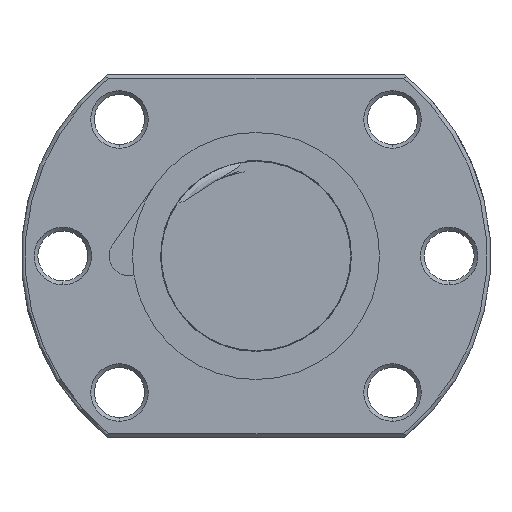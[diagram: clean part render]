
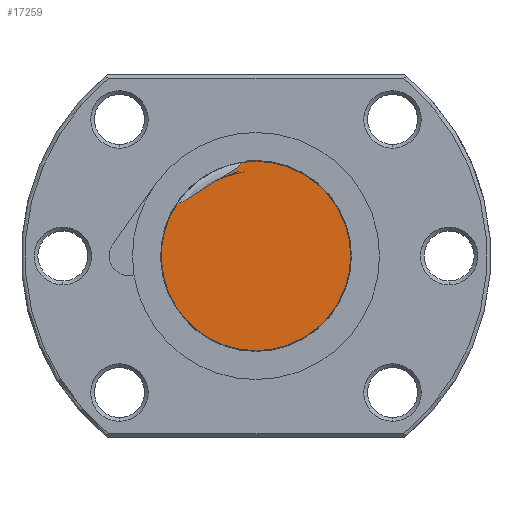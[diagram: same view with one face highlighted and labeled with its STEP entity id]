
A CAD part, left-side view. The second image highlights one B-rep face of the part: STEP entity #17259.
In plain terms, the highlighted planar face has unit normal (-1, 0, 0).
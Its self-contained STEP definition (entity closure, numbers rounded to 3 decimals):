
#6766 = DIRECTION ( 'NONE',  ( 0., 0., -1. ) ) ;
#6768 = DIRECTION ( 'NONE',  ( 1., 0., 0. ) ) ;
#6769 = CARTESIAN_POINT ( 'NONE',  ( -271., 0., 0. ) ) ;
#6771 = AXIS2_PLACEMENT_3D ( 'NONE', #6769, #6768, #6766 ) ;
#6773 = PLANE ( 'NONE',  #6771 ) ;
#6820 = FACE_OUTER_BOUND ( 'NONE', #17260, .T. ) ;
#11388 = CARTESIAN_POINT ( 'NONE',  ( -271., 10.355, 7.001 ) ) ;
#11390 = CARTESIAN_POINT ( 'NONE',  ( -271., 10.25, 6.997 ) ) ;
#11392 = CARTESIAN_POINT ( 'NONE',  ( -271., 10.144, 7.013 ) ) ;
#11394 = CARTESIAN_POINT ( 'NONE',  ( -271., 9.941, 7.062 ) ) ;
#11396 = CARTESIAN_POINT ( 'NONE',  ( -271., 9.842, 7.097 ) ) ;
#11398 = CARTESIAN_POINT ( 'NONE',  ( -271., 9.549, 7.214 ) ) ;
#11400 = CARTESIAN_POINT ( 'NONE',  ( -271., 9.363, 7.311 ) ) ;
#11402 = CARTESIAN_POINT ( 'NONE',  ( -271., 8.816, 7.619 ) ) ;
#11404 = CARTESIAN_POINT ( 'NONE',  ( -271., 8.464, 7.85 ) ) ;
#11406 = CARTESIAN_POINT ( 'NONE',  ( -271., 7.764, 8.313 ) ) ;
#11408 = CARTESIAN_POINT ( 'NONE',  ( -271., 7.416, 8.548 ) ) ;
#11409 = CARTESIAN_POINT ( 'NONE',  ( -271., 6.716, 9.011 ) ) ;
#11411 = CARTESIAN_POINT ( 'NONE',  ( -271., 6.013, 9.468 ) ) ;
#11413 = CARTESIAN_POINT ( 'NONE',  ( -271., 5.299, 9.909 ) ) ;
#11415 = CARTESIAN_POINT ( 'NONE',  ( -271., 4.582, 10.345 ) ) ;
#11417 = CARTESIAN_POINT ( 'NONE',  ( -271., 4.222, 10.561 ) ) ;
#11419 = CARTESIAN_POINT ( 'NONE',  ( -271., 3.505, 10.997 ) ) ;
#11421 = CARTESIAN_POINT ( 'NONE',  ( -271., 3.147, 11.217 ) ) ;
#11422 = CARTESIAN_POINT ( 'NONE',  ( -271., 2.634, 11.582 ) ) ;
#11439 = B_SPLINE_CURVE_WITH_KNOTS ( 'NONE', 3,
 ( #11500, #11498, #11496, #11494, #11492, #11490, #11422, #11421, #11419, #11417, #11415, #11413, #11411, #11409, #11408, #11406, #11404, #11402, #11400, #11398, #11396, #11394, #11392, #11390, #11388 ),
 .UNSPECIFIED., .F., .F.,
 ( 4, 2, 2, 2, 2, 2, 1, 2, 2, 2, 2, 2, 4 ),
 ( 0., 0.001, 0.001, 0.002, 0.003, 0.004, 0.005, 0.007, 0.008, 0.009, 0.01, 0.01, 0.01 ),
 .UNSPECIFIED. ) ;
#11490 = CARTESIAN_POINT ( 'NONE',  ( -271., 2.466, 11.71 ) ) ;
#11492 = CARTESIAN_POINT ( 'NONE',  ( -271., 2.234, 11.925 ) ) ;
#11494 = CARTESIAN_POINT ( 'NONE',  ( -271., 2.161, 12. ) ) ;
#11496 = CARTESIAN_POINT ( 'NONE',  ( -271., 2.028, 12.163 ) ) ;
#11498 = CARTESIAN_POINT ( 'NONE',  ( -271., 1.968, 12.253 ) ) ;
#11500 = CARTESIAN_POINT ( 'NONE',  ( -271., 1.927, 12.351 ) ) ;
#16943 = EDGE_CURVE ( 'NONE', #16944, #16945, #19623, .T. ) ;
#16944 = VERTEX_POINT ( 'NONE', #19619 ) ;
#16945 = VERTEX_POINT ( 'NONE', #19618 ) ;
#17130 = EDGE_CURVE ( 'NONE', #16945, #20118, #17644, .T. ) ;
#17259 = ADVANCED_FACE ( 'NONE', ( #6820 ), #6773, .F. ) ;
#17260 = EDGE_LOOP ( 'NONE', ( #17354, #17323, #17325, #17428 ) ) ;
#17323 = ORIENTED_EDGE ( 'NONE', *, *, #17324, .T. ) ;
#17324 = EDGE_CURVE ( 'NONE', #16944, #20033, #11439, .T. ) ;
#17325 = ORIENTED_EDGE ( 'NONE', *, *, #20120, .F. ) ;
#17354 = ORIENTED_EDGE ( 'NONE', *, *, #16943, .F. ) ;
#17428 = ORIENTED_EDGE ( 'NONE', *, *, #17130, .F. ) ;
#17636 = DIRECTION ( 'NONE',  ( 0., 1., 0. ) ) ;
#17637 = DIRECTION ( 'NONE',  ( 1., 0., 0. ) ) ;
#17638 = CARTESIAN_POINT ( 'NONE',  ( -271., 0., 0. ) ) ;
#17639 = AXIS2_PLACEMENT_3D ( 'NONE', #17638, #17637, #17636 ) ;
#17644 = CIRCLE ( 'NONE', #17639, 12.5 ) ;
#19618 = CARTESIAN_POINT ( 'NONE',  ( -271., 0., 12.5 ) ) ;
#19619 = CARTESIAN_POINT ( 'NONE',  ( -271., 1.927, 12.351 ) ) ;
#19620 = DIRECTION ( 'NONE',  ( 0., 1., 0. ) ) ;
#19621 = DIRECTION ( 'NONE',  ( 1., 0., 0. ) ) ;
#19622 = AXIS2_PLACEMENT_3D ( 'NONE', #19628, #19621, #19620 ) ;
#19623 = CIRCLE ( 'NONE', #19622, 12.5 ) ;
#19628 = CARTESIAN_POINT ( 'NONE',  ( -271., 0., 0. ) ) ;
#20033 = VERTEX_POINT ( 'NONE', #23897 ) ;
#20118 = VERTEX_POINT ( 'NONE', #24251 ) ;
#20120 = EDGE_CURVE ( 'NONE', #20118, #20033, #24250, .T. ) ;
#23897 = CARTESIAN_POINT ( 'NONE',  ( -271., 10.355, 7.001 ) ) ;
#24246 = DIRECTION ( 'NONE',  ( 0., 1., 0. ) ) ;
#24247 = DIRECTION ( 'NONE',  ( 1., 0., 0. ) ) ;
#24248 = CARTESIAN_POINT ( 'NONE',  ( -271., 0., 0. ) ) ;
#24249 = AXIS2_PLACEMENT_3D ( 'NONE', #24248, #24247, #24246 ) ;
#24250 = CIRCLE ( 'NONE', #24249, 12.5 ) ;
#24251 = CARTESIAN_POINT ( 'NONE',  ( -271., 0., -12.5 ) ) ;
